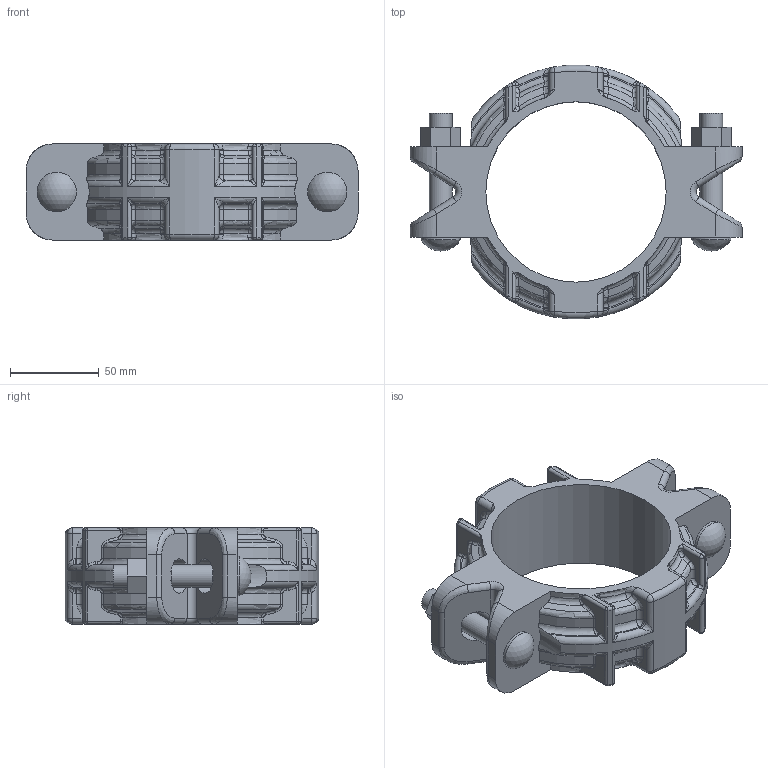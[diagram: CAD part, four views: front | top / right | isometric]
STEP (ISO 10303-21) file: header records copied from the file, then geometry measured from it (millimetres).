
FILE_DESCRIPTION(/* description */ ('VIC COUPLING STYLE XL 79','CAx-IF Rec.Pracs.---Representation and Presentation of Product Manufacturing Information (PMI)---4.0---2014-10-13'),/* implementation_level */ '2;1');
FILE_NAME(/* name */ 'C:\Users\kkamble\AppData\Roaming\Autodesk\ApplicationPlugins\Back Up\Victaulic_IPS-XL_Coupling_Style XL79 (XLG)\Victaulic_IPS-XL_Coupling_Style XL79 (XLG)_3 (80).stp',/* time_stamp */ '2020-08-05T13:49:33+05:00',/* author */ ('jheald'),/* organization */ ('Victaulic'),/* preprocessor_version */ 'ST-DEVELOPER v17.2',/* originating_system */ 'Autodesk Inventor 2019',/* authorisation */ '');
FILE_SCHEMA (('AP242_MANAGED_MODEL_BASED_3D_ENGINEERING_MIM_LF { 1 0 10303 442 1 1 4 }'));
Length unit declared in the file: inch
Products named in the file (1): XL79-03.0
Bounding box: 187.02 x 142.76 x 54.13 mm (x, y, z)
Volume: 411401.5 mm3; surface area: 77853.3 mm2
Topology: 1 solids, 1 shells, 575 faces, 1395 edges, 800 vertices
Faces by surface type: cylinder 195, bspline 160, plane 82, torus 80, sphere 42, cone 16
Full cylindrical faces by diameter (mm): 12.7 x4, 22.225 x2, 101.6 x1
Entity records: 22890 total; most frequent: CARTESIAN_POINT 9793, ORIENTED_EDGE 2742, DIRECTION 2421, EDGE_CURVE 1371, AXIS2_PLACEMENT_3D 1009, VERTEX_POINT 800, EDGE_LOOP 587, STYLED_ITEM 577
